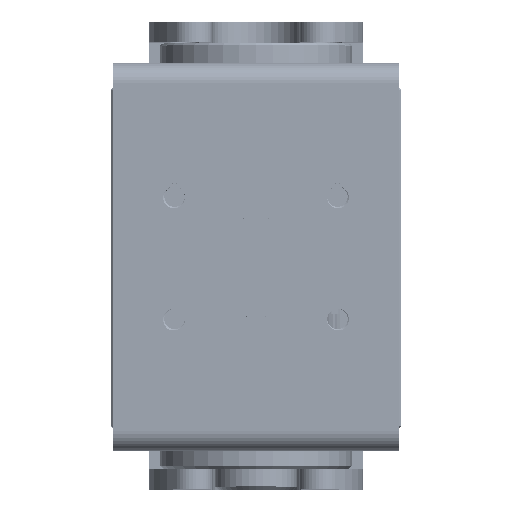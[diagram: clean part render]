
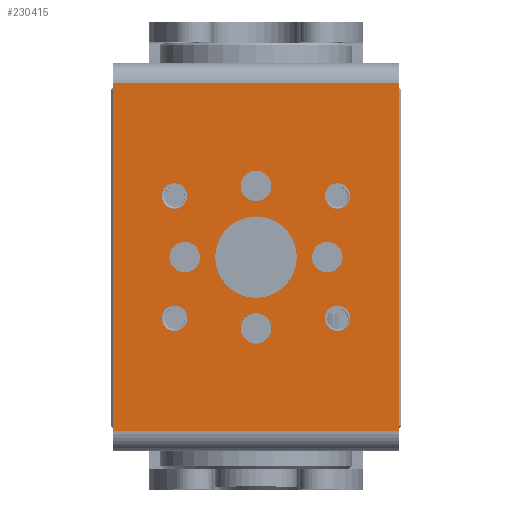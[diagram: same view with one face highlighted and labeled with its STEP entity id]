
A CAD part, top view. The second image highlights one B-rep face of the part: STEP entity #230415.
In plain terms, the highlighted planar face has unit normal (0, 0, 1) as drawn and (0, 1, 0) by its records, which use the part's own axes.
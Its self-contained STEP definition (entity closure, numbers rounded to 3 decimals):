
#229410=DIRECTION('',(1.,0.,0.));
#229411=VECTOR('',#229410,34.1);
#229412=CARTESIAN_POINT('',(-17.05,2.,-14.));
#229413=LINE('',#229412,#229411);
#229414=DIRECTION('',(-1.,0.,0.));
#229415=VECTOR('',#229414,34.1);
#229416=CARTESIAN_POINT('',(17.05,2.,14.));
#229417=LINE('',#229416,#229415);
#229418=CARTESIAN_POINT('',(0.,2.,0.));
#229419=DIRECTION('',(0.,1.,0.));
#229420=DIRECTION('',(0.,0.,1.));
#229421=AXIS2_PLACEMENT_3D('',#229418,#229419,#229420);
#229423=CARTESIAN_POINT('',(0.,2.,0.));
#229424=DIRECTION('',(0.,1.,0.));
#229425=DIRECTION('',(0.,0.,-1.));
#229426=AXIS2_PLACEMENT_3D('',#229423,#229424,#229425);
#229428=CARTESIAN_POINT('',(-7.,2.,0.));
#229429=DIRECTION('',(0.,1.,0.));
#229430=DIRECTION('',(0.,0.,1.));
#229431=AXIS2_PLACEMENT_3D('',#229428,#229429,#229430);
#229433=CARTESIAN_POINT('',(-7.,2.,0.));
#229434=DIRECTION('',(0.,1.,0.));
#229435=DIRECTION('',(0.,0.,-1.));
#229436=AXIS2_PLACEMENT_3D('',#229433,#229434,#229435);
#229438=CARTESIAN_POINT('',(7.,2.,0.));
#229439=DIRECTION('',(0.,1.,0.));
#229440=DIRECTION('',(0.,0.,1.));
#229441=AXIS2_PLACEMENT_3D('',#229438,#229439,#229440);
#229443=CARTESIAN_POINT('',(7.,2.,0.));
#229444=DIRECTION('',(0.,1.,0.));
#229445=DIRECTION('',(0.,0.,-1.));
#229446=AXIS2_PLACEMENT_3D('',#229443,#229444,#229445);
#229448=CARTESIAN_POINT('',(0.,2.,-7.));
#229449=DIRECTION('',(0.,1.,0.));
#229450=DIRECTION('',(0.,0.,1.));
#229451=AXIS2_PLACEMENT_3D('',#229448,#229449,#229450);
#229453=CARTESIAN_POINT('',(0.,2.,-7.));
#229454=DIRECTION('',(0.,1.,0.));
#229455=DIRECTION('',(0.,0.,-1.));
#229456=AXIS2_PLACEMENT_3D('',#229453,#229454,#229455);
#229458=CARTESIAN_POINT('',(0.,2.,7.));
#229459=DIRECTION('',(0.,1.,0.));
#229460=DIRECTION('',(0.,0.,1.));
#229461=AXIS2_PLACEMENT_3D('',#229458,#229459,#229460);
#229463=CARTESIAN_POINT('',(0.,2.,7.));
#229464=DIRECTION('',(0.,1.,0.));
#229465=DIRECTION('',(0.,0.,-1.));
#229466=AXIS2_PLACEMENT_3D('',#229463,#229464,#229465);
#229468=CARTESIAN_POINT('',(-6.,2.,-8.));
#229469=DIRECTION('',(0.,1.,0.));
#229470=DIRECTION('',(0.,0.,1.));
#229471=AXIS2_PLACEMENT_3D('',#229468,#229469,#229470);
#229473=CARTESIAN_POINT('',(-6.,2.,-8.));
#229474=DIRECTION('',(0.,1.,0.));
#229475=DIRECTION('',(0.,0.,-1.));
#229476=AXIS2_PLACEMENT_3D('',#229473,#229474,#229475);
#229478=CARTESIAN_POINT('',(-6.,2.,8.));
#229479=DIRECTION('',(0.,1.,0.));
#229480=DIRECTION('',(0.,0.,1.));
#229481=AXIS2_PLACEMENT_3D('',#229478,#229479,#229480);
#229483=CARTESIAN_POINT('',(-6.,2.,8.));
#229484=DIRECTION('',(0.,1.,0.));
#229485=DIRECTION('',(0.,0.,-1.));
#229486=AXIS2_PLACEMENT_3D('',#229483,#229484,#229485);
#229488=CARTESIAN_POINT('',(6.,2.,-8.));
#229489=DIRECTION('',(0.,1.,0.));
#229490=DIRECTION('',(0.,0.,1.));
#229491=AXIS2_PLACEMENT_3D('',#229488,#229489,#229490);
#229493=CARTESIAN_POINT('',(6.,2.,-8.));
#229494=DIRECTION('',(0.,1.,0.));
#229495=DIRECTION('',(0.,0.,-1.));
#229496=AXIS2_PLACEMENT_3D('',#229493,#229494,#229495);
#229498=CARTESIAN_POINT('',(6.,2.,8.));
#229499=DIRECTION('',(0.,1.,0.));
#229500=DIRECTION('',(0.,0.,1.));
#229501=AXIS2_PLACEMENT_3D('',#229498,#229499,#229500);
#229503=CARTESIAN_POINT('',(6.,2.,8.));
#229504=DIRECTION('',(0.,1.,0.));
#229505=DIRECTION('',(0.,0.,-1.));
#229506=AXIS2_PLACEMENT_3D('',#229503,#229504,#229505);
#229512=DIRECTION('',(0.,0.,1.));
#229513=VECTOR('',#229512,28.);
#229514=CARTESIAN_POINT('',(-17.05,2.,-14.));
#229515=LINE('',#229514,#229513);
#229674=DIRECTION('',(0.,0.,-1.));
#229675=VECTOR('',#229674,28.);
#229676=CARTESIAN_POINT('',(17.05,2.,14.));
#229677=LINE('',#229676,#229675);
#230138=CARTESIAN_POINT('',(-17.05,2.,-14.));
#230139=CARTESIAN_POINT('',(-17.05,2.,14.));
#230140=VERTEX_POINT('',#230138);
#230141=VERTEX_POINT('',#230139);
#230142=CARTESIAN_POINT('',(17.05,2.,-14.));
#230143=VERTEX_POINT('',#230142);
#230144=CARTESIAN_POINT('',(17.05,2.,14.));
#230145=VERTEX_POINT('',#230144);
#230146=CARTESIAN_POINT('',(0.,2.,4.));
#230147=CARTESIAN_POINT('',(0.,2.,-4.));
#230148=VERTEX_POINT('',#230146);
#230149=VERTEX_POINT('',#230147);
#230150=CARTESIAN_POINT('',(-7.,2.,1.5));
#230151=CARTESIAN_POINT('',(-7.,2.,-1.5));
#230152=VERTEX_POINT('',#230150);
#230153=VERTEX_POINT('',#230151);
#230154=CARTESIAN_POINT('',(7.,2.,1.5));
#230155=CARTESIAN_POINT('',(7.,2.,-1.5));
#230156=VERTEX_POINT('',#230154);
#230157=VERTEX_POINT('',#230155);
#230158=CARTESIAN_POINT('',(0.,2.,-5.5));
#230159=CARTESIAN_POINT('',(0.,2.,-8.5));
#230160=VERTEX_POINT('',#230158);
#230161=VERTEX_POINT('',#230159);
#230162=CARTESIAN_POINT('',(0.,2.,8.5));
#230163=CARTESIAN_POINT('',(0.,2.,5.5));
#230164=VERTEX_POINT('',#230162);
#230165=VERTEX_POINT('',#230163);
#230166=CARTESIAN_POINT('',(-6.,2.,-6.75));
#230167=CARTESIAN_POINT('',(-6.,2.,-9.25));
#230168=VERTEX_POINT('',#230166);
#230169=VERTEX_POINT('',#230167);
#230170=CARTESIAN_POINT('',(-6.,2.,9.25));
#230171=CARTESIAN_POINT('',(-6.,2.,6.75));
#230172=VERTEX_POINT('',#230170);
#230173=VERTEX_POINT('',#230171);
#230174=CARTESIAN_POINT('',(6.,2.,-6.75));
#230175=CARTESIAN_POINT('',(6.,2.,-9.25));
#230176=VERTEX_POINT('',#230174);
#230177=VERTEX_POINT('',#230175);
#230178=CARTESIAN_POINT('',(6.,2.,9.25));
#230179=CARTESIAN_POINT('',(6.,2.,6.75));
#230180=VERTEX_POINT('',#230178);
#230181=VERTEX_POINT('',#230179);
#230346=CARTESIAN_POINT('',(0.,2.,0.));
#230347=DIRECTION('',(0.,1.,0.));
#230348=DIRECTION('',(1.,0.,0.));
#230349=AXIS2_PLACEMENT_3D('',#230346,#230347,#230348);
#230350=PLANE('',#230349);
#230352=ORIENTED_EDGE('',*,*,#230351,.F.);
#230354=ORIENTED_EDGE('',*,*,#230353,.T.);
#230356=ORIENTED_EDGE('',*,*,#230355,.F.);
#230358=ORIENTED_EDGE('',*,*,#230357,.T.);
#230359=EDGE_LOOP('',(#230352,#230354,#230356,#230358));
#230360=FACE_OUTER_BOUND('',#230359,.F.);
#230362=ORIENTED_EDGE('',*,*,#230361,.T.);
#230364=ORIENTED_EDGE('',*,*,#230363,.T.);
#230365=EDGE_LOOP('',(#230362,#230364));
#230366=FACE_BOUND('',#230365,.F.);
#230368=ORIENTED_EDGE('',*,*,#230367,.T.);
#230370=ORIENTED_EDGE('',*,*,#230369,.T.);
#230371=EDGE_LOOP('',(#230368,#230370));
#230372=FACE_BOUND('',#230371,.F.);
#230374=ORIENTED_EDGE('',*,*,#230373,.T.);
#230376=ORIENTED_EDGE('',*,*,#230375,.T.);
#230377=EDGE_LOOP('',(#230374,#230376));
#230378=FACE_BOUND('',#230377,.F.);
#230380=ORIENTED_EDGE('',*,*,#230379,.T.);
#230382=ORIENTED_EDGE('',*,*,#230381,.T.);
#230383=EDGE_LOOP('',(#230380,#230382));
#230384=FACE_BOUND('',#230383,.F.);
#230386=ORIENTED_EDGE('',*,*,#230385,.T.);
#230388=ORIENTED_EDGE('',*,*,#230387,.T.);
#230389=EDGE_LOOP('',(#230386,#230388));
#230390=FACE_BOUND('',#230389,.F.);
#230392=ORIENTED_EDGE('',*,*,#230391,.T.);
#230394=ORIENTED_EDGE('',*,*,#230393,.T.);
#230395=EDGE_LOOP('',(#230392,#230394));
#230396=FACE_BOUND('',#230395,.F.);
#230398=ORIENTED_EDGE('',*,*,#230397,.T.);
#230400=ORIENTED_EDGE('',*,*,#230399,.T.);
#230401=EDGE_LOOP('',(#230398,#230400));
#230402=FACE_BOUND('',#230401,.F.);
#230404=ORIENTED_EDGE('',*,*,#230403,.T.);
#230406=ORIENTED_EDGE('',*,*,#230405,.T.);
#230407=EDGE_LOOP('',(#230404,#230406));
#230408=FACE_BOUND('',#230407,.F.);
#230410=ORIENTED_EDGE('',*,*,#230409,.T.);
#230412=ORIENTED_EDGE('',*,*,#230411,.T.);
#230413=EDGE_LOOP('',(#230410,#230412));
#230414=FACE_BOUND('',#230413,.F.);
#229422=CIRCLE('',#229421,4.);
#229427=CIRCLE('',#229426,4.);
#229432=CIRCLE('',#229431,1.5);
#229437=CIRCLE('',#229436,1.5);
#229442=CIRCLE('',#229441,1.5);
#229447=CIRCLE('',#229446,1.5);
#229452=CIRCLE('',#229451,1.5);
#229457=CIRCLE('',#229456,1.5);
#229462=CIRCLE('',#229461,1.5);
#229467=CIRCLE('',#229466,1.5);
#229472=CIRCLE('',#229471,1.25);
#229477=CIRCLE('',#229476,1.25);
#229482=CIRCLE('',#229481,1.25);
#229487=CIRCLE('',#229486,1.25);
#229492=CIRCLE('',#229491,1.25);
#229497=CIRCLE('',#229496,1.25);
#229502=CIRCLE('',#229501,1.25);
#229507=CIRCLE('',#229506,1.25);
#230351=EDGE_CURVE('',#230140,#230141,#229515,.T.);
#230353=EDGE_CURVE('',#230140,#230143,#229413,.T.);
#230355=EDGE_CURVE('',#230145,#230143,#229677,.T.);
#230357=EDGE_CURVE('',#230145,#230141,#229417,.T.);
#230361=EDGE_CURVE('',#230148,#230149,#229422,.T.);
#230363=EDGE_CURVE('',#230149,#230148,#229427,.T.);
#230367=EDGE_CURVE('',#230152,#230153,#229432,.T.);
#230369=EDGE_CURVE('',#230153,#230152,#229437,.T.);
#230373=EDGE_CURVE('',#230156,#230157,#229442,.T.);
#230375=EDGE_CURVE('',#230157,#230156,#229447,.T.);
#230379=EDGE_CURVE('',#230160,#230161,#229452,.T.);
#230381=EDGE_CURVE('',#230161,#230160,#229457,.T.);
#230385=EDGE_CURVE('',#230164,#230165,#229462,.T.);
#230387=EDGE_CURVE('',#230165,#230164,#229467,.T.);
#230391=EDGE_CURVE('',#230168,#230169,#229472,.T.);
#230393=EDGE_CURVE('',#230169,#230168,#229477,.T.);
#230397=EDGE_CURVE('',#230172,#230173,#229482,.T.);
#230399=EDGE_CURVE('',#230173,#230172,#229487,.T.);
#230403=EDGE_CURVE('',#230176,#230177,#229492,.T.);
#230405=EDGE_CURVE('',#230177,#230176,#229497,.T.);
#230409=EDGE_CURVE('',#230180,#230181,#229502,.T.);
#230411=EDGE_CURVE('',#230181,#230180,#229507,.T.);
#230415=ADVANCED_FACE('',(#230360,#230366,#230372,#230378,#230384,#230390,
#230396,#230402,#230408,#230414),#230350,.T.);
